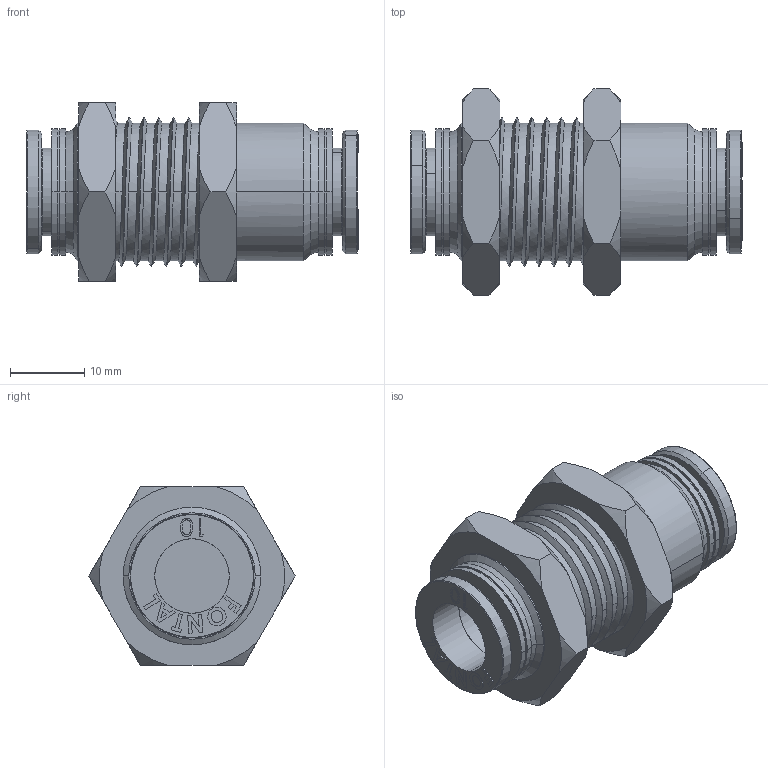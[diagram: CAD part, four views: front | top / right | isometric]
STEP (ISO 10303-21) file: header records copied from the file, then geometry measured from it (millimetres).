
FILE_DESCRIPTION (( 'STEP AP203' ), '1' );
FILE_NAME ('FPM10.STEP', '2016-01-14T21:13:19', ( '' ), ( '' ), 'SwSTEP 2.0', 'SolidWorks 2014', '' );
FILE_SCHEMA (( 'CONFIG_CONTROL_DESIGN' ));
Length unit declared in the file: millimetre
Products named in the file (4): FPM10; FPC10-02-A; FPM10-B; FPM10-A
Assembly tree (5 placements, depth 2):
  FPM10
    FPM10-A
    FPC10-02-A  x2
    FPM10-B  x2
Bounding box: 44.6 x 27.71 x 24 mm (x, y, z)
Volume: 10731.4 mm3; surface area: 7593.3 mm2
Topology: 5 solids, 5 shells, 300 faces, 740 edges, 484 vertices
Faces by surface type: plane 160, cylinder 54, bspline 42, cone 36, torus 8
Entity records: 9599 total; most frequent: CARTESIAN_POINT 5062, ORIENTED_EDGE 886, DIRECTION 765, EDGE_CURVE 443, VERTEX_POINT 288, AXIS2_PLACEMENT_3D 257, VECTOR 251, LINE 251
